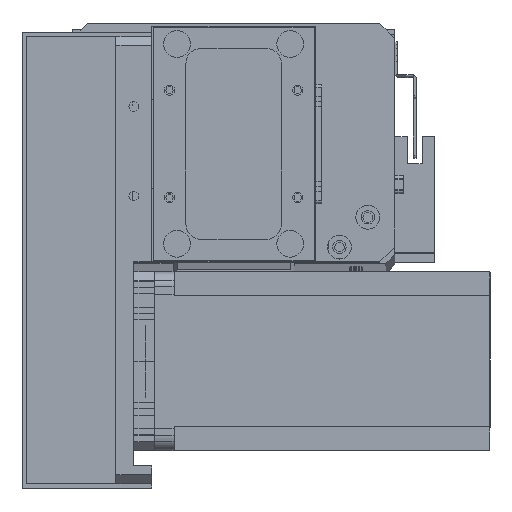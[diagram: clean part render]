
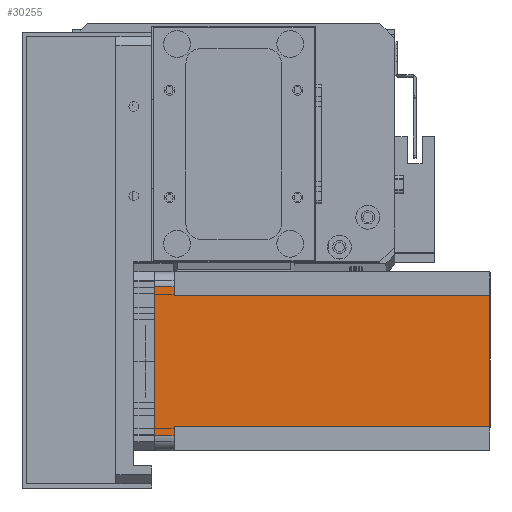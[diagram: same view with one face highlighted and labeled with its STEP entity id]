
A CAD part, top view. The second image highlights one B-rep face of the part: STEP entity #30255.
In plain terms, the highlighted planar face has unit normal (0, 0, 1) as drawn and (0, 1, 0) by its records, which use the part's own axes.
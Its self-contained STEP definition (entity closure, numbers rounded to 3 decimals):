
#885 = LINE ( 'NONE', #9097, #26000 ) ;
#1003 = DIRECTION ( 'NONE',  ( -1., 0., 0. ) ) ;
#1189 = EDGE_CURVE ( 'NONE', #9247, #27649, #12620, .T. ) ;
#2809 = DIRECTION ( 'NONE',  ( 0., 0., 1. ) ) ;
#2828 = ORIENTED_EDGE ( 'NONE', *, *, #8671, .T. ) ;
#3458 = CARTESIAN_POINT ( 'NONE',  ( 0., 60., -112.5 ) ) ;
#3824 = ORIENTED_EDGE ( 'NONE', *, *, #1189, .T. ) ;
#4062 = DIRECTION ( 'NONE',  ( 0., 0., -1. ) ) ;
#6625 = CARTESIAN_POINT ( 'NONE',  ( 52., 60., -112.5 ) ) ;
#7399 = DIRECTION ( 'NONE',  ( -1., 0., 0. ) ) ;
#7538 = CARTESIAN_POINT ( 'NONE',  ( 0., 60., -112.5 ) ) ;
#7780 = LINE ( 'NONE', #16725, #14413 ) ;
#8268 = CARTESIAN_POINT ( 'NONE',  ( 52., 60., -112.5 ) ) ;
#8671 = EDGE_CURVE ( 'NONE', #14623, #30450, #885, .T. ) ;
#9097 = CARTESIAN_POINT ( 'NONE',  ( 55., 60., -112.5 ) ) ;
#9189 = CARTESIAN_POINT ( 'NONE',  ( 55., 60., 0. ) ) ;
#9247 = VERTEX_POINT ( 'NONE', #13273 ) ;
#10054 = DIRECTION ( 'NONE',  ( 0., 0., 1. ) ) ;
#10296 = ORIENTED_EDGE ( 'NONE', *, *, #30636, .F. ) ;
#10576 = EDGE_LOOP ( 'NONE', ( #23582, #2828, #10296, #18520, #18491, #12253, #14770, #3824 ) ) ;
#10781 = DIRECTION ( 'NONE',  ( 0., 0., 1. ) ) ;
#12017 = VERTEX_POINT ( 'NONE', #6625 ) ;
#12253 = ORIENTED_EDGE ( 'NONE', *, *, #17718, .F. ) ;
#12620 = LINE ( 'NONE', #17844, #31754 ) ;
#13273 = CARTESIAN_POINT ( 'NONE',  ( 5., 60., -6.5 ) ) ;
#13289 = VECTOR ( 'NONE', #1003, 1000. ) ;
#13365 = EDGE_CURVE ( 'NONE', #16488, #9247, #30081, .T. ) ;
#13700 = FACE_OUTER_BOUND ( 'NONE', #10576, .T. ) ;
#14413 = VECTOR ( 'NONE', #31654, 1000. ) ;
#14623 = VERTEX_POINT ( 'NONE', #9189 ) ;
#14770 = ORIENTED_EDGE ( 'NONE', *, *, #13365, .T. ) ;
#15236 = VECTOR ( 'NONE', #24159, 1000. ) ;
#16233 = CARTESIAN_POINT ( 'NONE',  ( 8., 60., -6.5 ) ) ;
#16488 = VERTEX_POINT ( 'NONE', #16233 ) ;
#16725 = CARTESIAN_POINT ( 'NONE',  ( 8., 60., -112.5 ) ) ;
#16774 = LINE ( 'NONE', #8268, #29265 ) ;
#17718 = EDGE_CURVE ( 'NONE', #16488, #19973, #7780, .T. ) ;
#17844 = CARTESIAN_POINT ( 'NONE',  ( 5., 60., -112.5 ) ) ;
#18076 = EDGE_CURVE ( 'NONE', #12017, #19891, #16774, .T. ) ;
#18491 = ORIENTED_EDGE ( 'NONE', *, *, #30491, .T. ) ;
#18520 = ORIENTED_EDGE ( 'NONE', *, *, #18076, .F. ) ;
#19638 = CARTESIAN_POINT ( 'NONE',  ( 5., 60., 0. ) ) ;
#19891 = VERTEX_POINT ( 'NONE', #29407 ) ;
#19970 = LINE ( 'NONE', #3458, #13289 ) ;
#19973 = VERTEX_POINT ( 'NONE', #29730 ) ;
#20022 = PLANE ( 'NONE',  #28121 ) ;
#21623 = CARTESIAN_POINT ( 'NONE',  ( 52., 60., -6.5 ) ) ;
#22162 = EDGE_CURVE ( 'NONE', #14623, #27649, #30986, .T. ) ;
#22170 = CARTESIAN_POINT ( 'NONE',  ( 8., 60., -6.5 ) ) ;
#23397 = CARTESIAN_POINT ( 'NONE',  ( 55., 60., -6.5 ) ) ;
#23453 = VECTOR ( 'NONE', #7399, 1000. ) ;
#23482 = LINE ( 'NONE', #21623, #15236 ) ;
#23582 = ORIENTED_EDGE ( 'NONE', *, *, #22162, .F. ) ;
#24159 = DIRECTION ( 'NONE',  ( 1., 0., 0. ) ) ;
#24379 = VECTOR ( 'NONE', #30994, 1000. ) ;
#25066 = DIRECTION ( 'NONE',  ( 0., 1., 0. ) ) ;
#26000 = VECTOR ( 'NONE', #4062, 1000. ) ;
#27649 = VERTEX_POINT ( 'NONE', #19638 ) ;
#28121 = AXIS2_PLACEMENT_3D ( 'NONE', #7538, #25066, #10054 ) ;
#28482 = CARTESIAN_POINT ( 'NONE',  ( 0., 60., 0. ) ) ;
#29265 = VECTOR ( 'NONE', #10781, 1000. ) ;
#29407 = CARTESIAN_POINT ( 'NONE',  ( 52., 60., -6.5 ) ) ;
#29730 = CARTESIAN_POINT ( 'NONE',  ( 8., 60., -112.5 ) ) ;
#30081 = LINE ( 'NONE', #22170, #23453 ) ;
#30255 = ADVANCED_FACE ( 'NONE', ( #13700 ), #20022, .T. ) ;
#30450 = VERTEX_POINT ( 'NONE', #23397 ) ;
#30491 = EDGE_CURVE ( 'NONE', #12017, #19973, #19970, .T. ) ;
#30636 = EDGE_CURVE ( 'NONE', #19891, #30450, #23482, .T. ) ;
#30986 = LINE ( 'NONE', #28482, #24379 ) ;
#30994 = DIRECTION ( 'NONE',  ( -1., 0., 0. ) ) ;
#31654 = DIRECTION ( 'NONE',  ( 0., 0., -1. ) ) ;
#31754 = VECTOR ( 'NONE', #2809, 1000. ) ;
